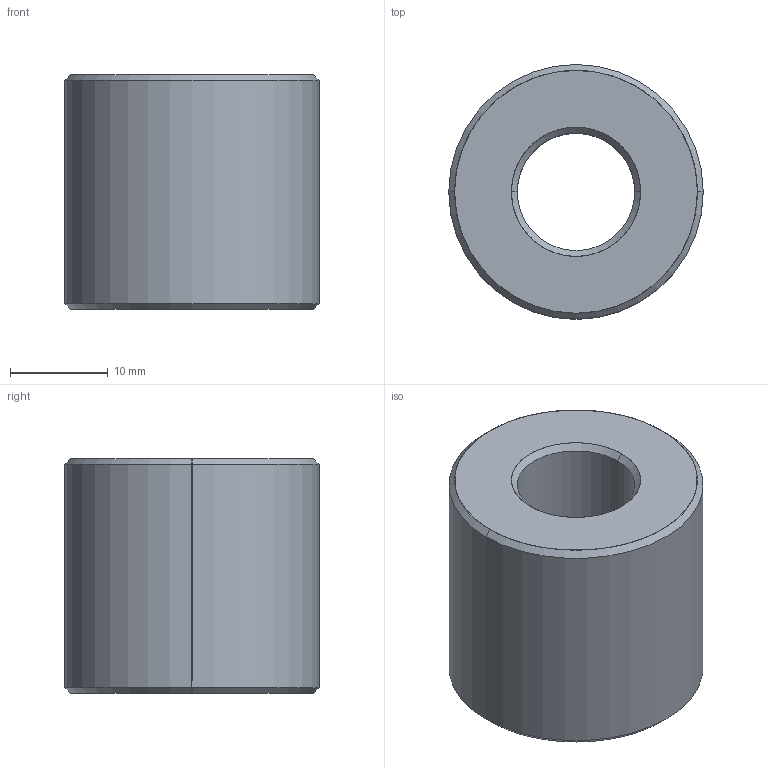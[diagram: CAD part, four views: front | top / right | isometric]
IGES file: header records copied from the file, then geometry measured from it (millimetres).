
Start section: SolidWorks IGES file using analytic representation for surfaces
Global section: file name: C:\Users\ianosborn\Desktop\L1330_v2\L1330_v2_20241024_IGES\L1330.R12-06.igs; native system: SolidWorks 2019; preprocessor: SolidWorks 2019; author: IanOsborn; date: 241024.102535; units: millimetre
Bounding box: 26 x 26 x 24 mm (x, y, z)
Surface area: 3616.9 mm2 (no closed solid volume)
Topology: 0 solids, 0 shells, 14 faces, 176 edges, 176 vertices
Faces by surface type: revolution 12, bspline 2
